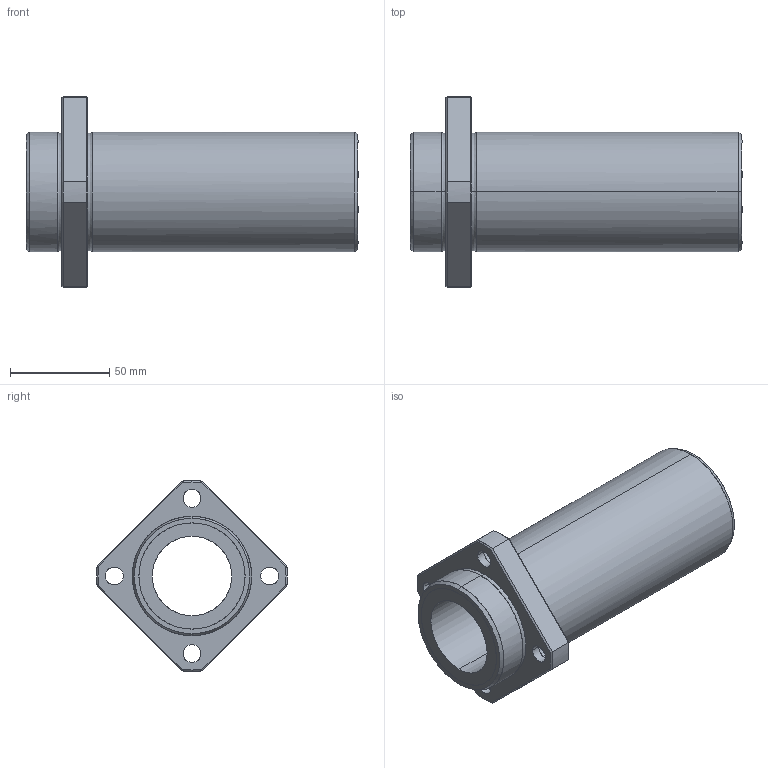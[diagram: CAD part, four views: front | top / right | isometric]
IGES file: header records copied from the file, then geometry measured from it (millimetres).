
Global section: file name: No Iges File Name specified; native system: AutoDesk Inventor R11.0; preprocessor: AutoDesk Inventor Iges Exporter R11.0; author: No Author specified; organization: No Organization specified; date: 20170921.143405; units: millimetre
Bounding box: 167 x 95.99 x 96 mm (x, y, z)
Surface area: 63369.4 mm2 (no closed solid volume)
Topology: 0 solids, 0 shells, 69 faces, 424 edges, 424 vertices
Faces by surface type: bspline 69
